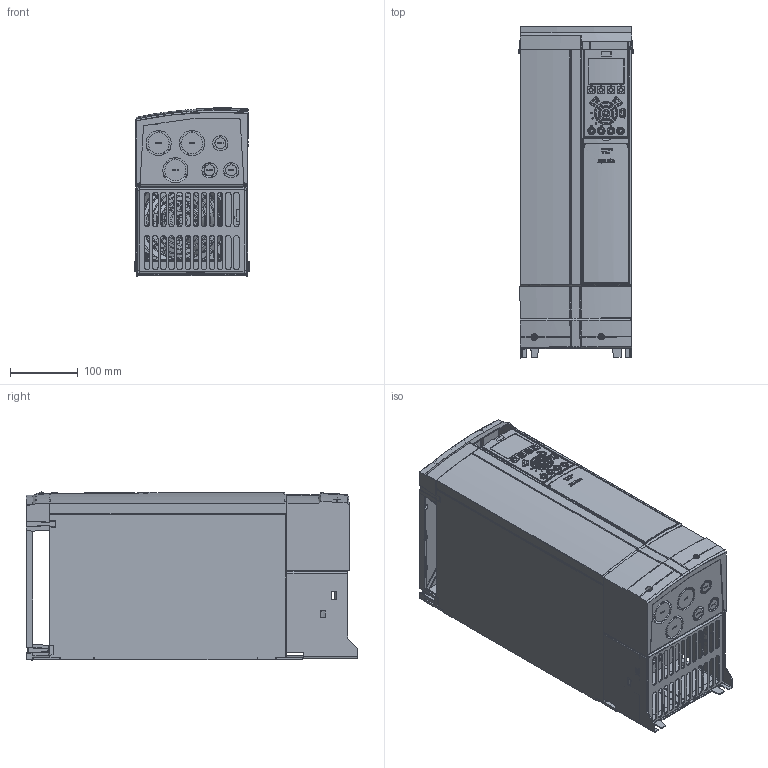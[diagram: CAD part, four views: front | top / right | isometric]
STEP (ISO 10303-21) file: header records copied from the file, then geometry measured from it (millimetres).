
FILE_DESCRIPTION((''),'2;1');
FILE_NAME('DANFOSS-FC200-B3-NEMA1-KIT-183','2008-07-10T',('Abhilash.Paramesh'),('dan Drives A/S'),'PRO/ENGINEER BY PARAMETRIC TECHNOLOGY CORPORATION, 2007160','PRO/ENGINEER BY PARAMETRIC TECHNOLOGY CORPORATION, 2007160','');
FILE_SCHEMA(('CONFIG_CONTROL_DESIGN', 'GEOMETRIC_VALIDATION_PROPERTIES_MIM'));
Length unit declared in the file: millimetre
Products named in the file (1): DANFOSS-FC200-B3-NEMA1-KIT-183
Bounding box: 169.82 x 490.92 x 248.8 mm (x, y, z)
Volume: 13979885.8 mm3; surface area: 898443 mm2
Topology: 2 solids, 21 shells, 6316 faces, 15990 edges, 9709 vertices
Faces by surface type: plane 2463, cylinder 2044, bspline 797, torus 461, sphere 332, cone 137, extrusion 82
Entity records: 315139 total; most frequent: CARTESIAN_POINT 93703, ORIENTED_EDGE 31748, DIRECTION 27504, PRESENTATION_STYLE_ASSIGNMENT 18968, STYLED_ITEM 16207, CURVE_STYLE 15956, EDGE_CURVE 15874, AXIS2_PLACEMENT_3D 9786
